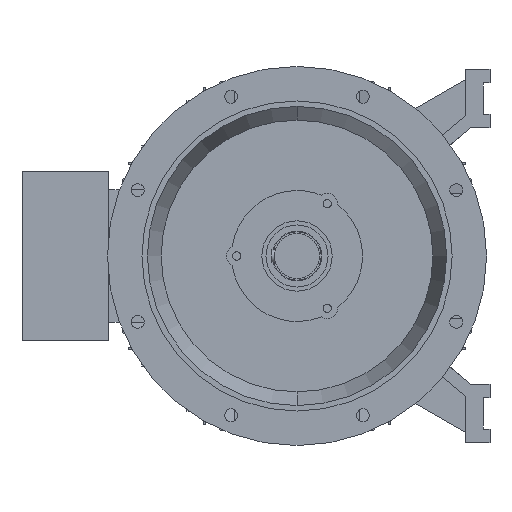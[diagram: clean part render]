
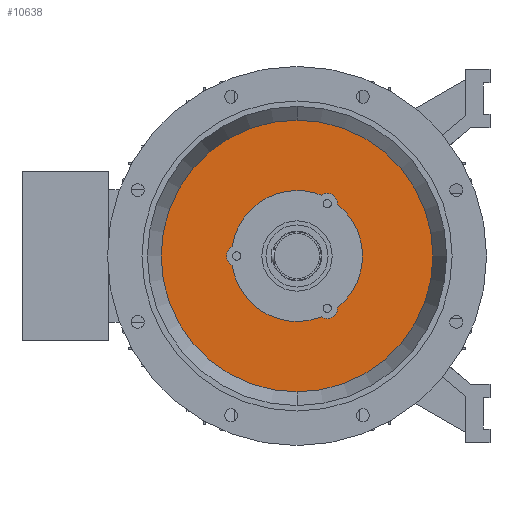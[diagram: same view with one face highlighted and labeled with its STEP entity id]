
A CAD part, left-side view. The second image highlights one B-rep face of the part: STEP entity #10638.
In plain terms, the highlighted planar face has unit normal (-1, 0, 0).
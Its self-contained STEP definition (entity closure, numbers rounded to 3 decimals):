
#653 = CIRCLE ( 'NONE', #15769, 197.164 ) ;
#739 = CIRCLE ( 'NONE', #15799, 197.164 ) ;
#819 = CIRCLE ( 'NONE', #15792, 15. ) ;
#826 = CIRCLE ( 'NONE', #15841, 95. ) ;
#834 = CIRCLE ( 'NONE', #15844, 15. ) ;
#848 = CIRCLE ( 'NONE', #15878, 15. ) ;
#853 = CIRCLE ( 'NONE', #15882, 95. ) ;
#862 = CIRCLE ( 'NONE', #15810, 95. ) ;
#2955 = PLANE ( 'NONE',  #21806 ) ;
#2973 = CARTESIAN_POINT ( 'NONE',  ( 54.5, 95., 0. ) ) ;
#2974 = DIRECTION ( 'NONE',  ( 1., 0., 0. ) ) ;
#2976 = DIRECTION ( 'NONE',  ( 0., 0., -1. ) ) ;
#10638 = ADVANCED_FACE ( 'NONE', ( #12849, #12863 ), #2955, .F. ) ;
#12849 = FACE_OUTER_BOUND ( 'NONE', #13395, .T. ) ;
#12863 = FACE_BOUND ( 'NONE', #13392, .T. ) ;
#13392 = EDGE_LOOP ( 'NONE', ( #15670, #15630, #15714, #15660, #15603, #15611, #15622, #15657 ) ) ;
#13395 = EDGE_LOOP ( 'NONE', ( #15652, #15641 ) ) ;
#14143 = VERTEX_POINT ( 'NONE', #16602 ) ;
#14250 = VERTEX_POINT ( 'NONE', #16708 ) ;
#14266 = VERTEX_POINT ( 'NONE', #16692 ) ;
#14296 = VERTEX_POINT ( 'NONE', #16677 ) ;
#14330 = VERTEX_POINT ( 'NONE', #16769 ) ;
#14334 = VERTEX_POINT ( 'NONE', #16778 ) ;
#14336 = VERTEX_POINT ( 'NONE', #16775 ) ;
#14495 = VERTEX_POINT ( 'NONE', #16809 ) ;
#14552 = VERTEX_POINT ( 'NONE', #16826 ) ;
#14604 = VERTEX_POINT ( 'NONE', #16856 ) ;
#14826 = EDGE_CURVE ( 'NONE', #14266, #14296, #26337, .T. ) ;
#14849 = EDGE_CURVE ( 'NONE', #14250, #14336, #26334, .T. ) ;
#15603 = ORIENTED_EDGE ( 'NONE', *, *, #22206, .F. ) ;
#15611 = ORIENTED_EDGE ( 'NONE', *, *, #22174, .F. ) ;
#15622 = ORIENTED_EDGE ( 'NONE', *, *, #22124, .F. ) ;
#15630 = ORIENTED_EDGE ( 'NONE', *, *, #22150, .F. ) ;
#15641 = ORIENTED_EDGE ( 'NONE', *, *, #22116, .F. ) ;
#15652 = ORIENTED_EDGE ( 'NONE', *, *, #22016, .F. ) ;
#15657 = ORIENTED_EDGE ( 'NONE', *, *, #22135, .F. ) ;
#15660 = ORIENTED_EDGE ( 'NONE', *, *, #22170, .F. ) ;
#15670 = ORIENTED_EDGE ( 'NONE', *, *, #14849, .F. ) ;
#15714 = ORIENTED_EDGE ( 'NONE', *, *, #14826, .F. ) ;
#15769 = AXIS2_PLACEMENT_3D ( 'NONE', #18505, #18512, #18518 ) ;
#15792 = AXIS2_PLACEMENT_3D ( 'NONE', #20804, #20829, #20840 ) ;
#15799 = AXIS2_PLACEMENT_3D ( 'NONE', #20730, #20746, #20754 ) ;
#15810 = AXIS2_PLACEMENT_3D ( 'NONE', #19895, #19897, #19898 ) ;
#15841 = AXIS2_PLACEMENT_3D ( 'NONE', #20784, #20790, #20798 ) ;
#15844 = AXIS2_PLACEMENT_3D ( 'NONE', #20733, #20756, #20734 ) ;
#15878 = AXIS2_PLACEMENT_3D ( 'NONE', #20049, #20051, #20062 ) ;
#15882 = AXIS2_PLACEMENT_3D ( 'NONE', #19934, #19937, #19965 ) ;
#16602 = CARTESIAN_POINT ( 'NONE',  ( 54.5, 0., 197.164 ) ) ;
#16677 = CARTESIAN_POINT ( 'NONE',  ( 54.5, -43.75, 90.777 ) ) ;
#16692 = CARTESIAN_POINT ( 'NONE',  ( 54.5, -58.71, 74.687 ) ) ;
#16708 = CARTESIAN_POINT ( 'NONE',  ( 54.5, -35.325, 88.188 ) ) ;
#16769 = CARTESIAN_POINT ( 'NONE',  ( 54.5, -58.71, -74.687 ) ) ;
#16775 = CARTESIAN_POINT ( 'NONE',  ( 54.5, 0., 95. ) ) ;
#16778 = CARTESIAN_POINT ( 'NONE',  ( 54.5, 0., -197.164 ) ) ;
#16809 = CARTESIAN_POINT ( 'NONE',  ( 54.5, 94.036, -13.501 ) ) ;
#16826 = CARTESIAN_POINT ( 'NONE',  ( 54.5, 94.036, 13.501 ) ) ;
#16856 = CARTESIAN_POINT ( 'NONE',  ( 54.5, -35.325, -88.188 ) ) ;
#16944 = DIRECTION ( 'NONE',  ( 0., 0., 1. ) ) ;
#16950 = DIRECTION ( 'NONE',  ( -1., 0., 0. ) ) ;
#16958 = DIRECTION ( 'NONE',  ( -1., 0., 0. ) ) ;
#16959 = CARTESIAN_POINT ( 'NONE',  ( 54.5, -43.75, 75.777 ) ) ;
#16960 = DIRECTION ( 'NONE',  ( 0., 0., 1. ) ) ;
#16973 = CARTESIAN_POINT ( 'NONE',  ( 54.5, 0., 0. ) ) ;
#18505 = CARTESIAN_POINT ( 'NONE',  ( 54.5, 0., 0. ) ) ;
#18512 = DIRECTION ( 'NONE',  ( 1., 0., 0. ) ) ;
#18518 = DIRECTION ( 'NONE',  ( 0., 0., 1. ) ) ;
#19895 = CARTESIAN_POINT ( 'NONE',  ( 54.5, 0., 0. ) ) ;
#19897 = DIRECTION ( 'NONE',  ( -1., 0., 0. ) ) ;
#19898 = DIRECTION ( 'NONE',  ( 0., 0., 1. ) ) ;
#19934 = CARTESIAN_POINT ( 'NONE',  ( 54.5, 0., 0. ) ) ;
#19937 = DIRECTION ( 'NONE',  ( -1., 0., 0. ) ) ;
#19965 = DIRECTION ( 'NONE',  ( 0., 0., 1. ) ) ;
#20049 = CARTESIAN_POINT ( 'NONE',  ( 54.5, -43.75, -75.777 ) ) ;
#20051 = DIRECTION ( 'NONE',  ( -1., 0., 0. ) ) ;
#20062 = DIRECTION ( 'NONE',  ( 0., 0., 1. ) ) ;
#20730 = CARTESIAN_POINT ( 'NONE',  ( 54.5, 0., 0. ) ) ;
#20733 = CARTESIAN_POINT ( 'NONE',  ( 54.5, 87.5, 0. ) ) ;
#20734 = DIRECTION ( 'NONE',  ( 0., 0., 1. ) ) ;
#20746 = DIRECTION ( 'NONE',  ( 1., 0., 0. ) ) ;
#20754 = DIRECTION ( 'NONE',  ( 0., 0., 1. ) ) ;
#20756 = DIRECTION ( 'NONE',  ( -1., 0., 0. ) ) ;
#20784 = CARTESIAN_POINT ( 'NONE',  ( 54.5, 0., 0. ) ) ;
#20790 = DIRECTION ( 'NONE',  ( -1., 0., 0. ) ) ;
#20798 = DIRECTION ( 'NONE',  ( 0., 0., 1. ) ) ;
#20804 = CARTESIAN_POINT ( 'NONE',  ( 54.5, -43.75, 75.777 ) ) ;
#20829 = DIRECTION ( 'NONE',  ( -1., 0., 0. ) ) ;
#20840 = DIRECTION ( 'NONE',  ( 0., 0., 1. ) ) ;
#21806 = AXIS2_PLACEMENT_3D ( 'NONE', #2973, #2974, #2976 ) ;
#22016 = EDGE_CURVE ( 'NONE', #14143, #14334, #653, .T. ) ;
#22116 = EDGE_CURVE ( 'NONE', #14334, #14143, #739, .T. ) ;
#22124 = EDGE_CURVE ( 'NONE', #14552, #14495, #834, .T. ) ;
#22135 = EDGE_CURVE ( 'NONE', #14336, #14552, #826, .T. ) ;
#22150 = EDGE_CURVE ( 'NONE', #14296, #14250, #819, .T. ) ;
#22170 = EDGE_CURVE ( 'NONE', #14330, #14266, #862, .T. ) ;
#22174 = EDGE_CURVE ( 'NONE', #14495, #14604, #853, .T. ) ;
#22206 = EDGE_CURVE ( 'NONE', #14604, #14330, #848, .T. ) ;
#26334 = CIRCLE ( 'NONE', #26718, 95. ) ;
#26337 = CIRCLE ( 'NONE', #26726, 15. ) ;
#26718 = AXIS2_PLACEMENT_3D ( 'NONE', #16973, #16950, #16944 ) ;
#26726 = AXIS2_PLACEMENT_3D ( 'NONE', #16959, #16958, #16960 ) ;
